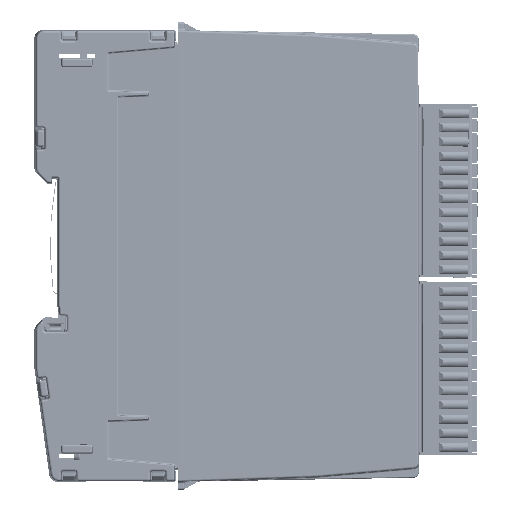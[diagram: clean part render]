
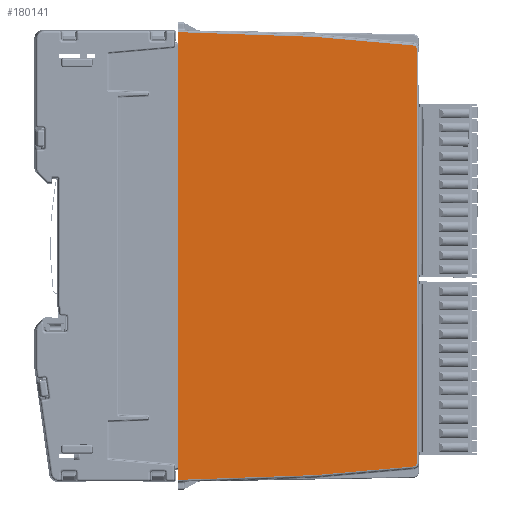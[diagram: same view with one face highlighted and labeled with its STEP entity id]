
A CAD part, left-side view. The second image highlights one B-rep face of the part: STEP entity #180141.
In plain terms, the highlighted planar face has unit normal (-1, -0.018, 0).
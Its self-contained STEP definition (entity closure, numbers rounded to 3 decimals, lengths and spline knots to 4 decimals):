
#2360=ELLIPSE('',#193391,0.0315,0.0315);
#2361=ELLIPSE('',#193392,0.0315,0.0315);
#10022=PLANE('',#193390);
#18099=FACE_OUTER_BOUND('',#28067,.T.);
#28067=EDGE_LOOP('',(#147251,#147252,#147253,#147254,#147255,#147256,#147257,
#147258,#147259,#147260));
#49917=LINE('',#298847,#67683);
#49918=LINE('',#298849,#67684);
#49919=LINE('',#298851,#67685);
#49920=LINE('',#298853,#67686);
#49921=LINE('',#298855,#67687);
#49922=LINE('',#298859,#67688);
#49923=LINE('',#298863,#67689);
#49924=LINE('',#298864,#67690);
#67683=VECTOR('',#229866,39.3701);
#67684=VECTOR('',#229867,39.3701);
#67685=VECTOR('',#229868,39.3701);
#67686=VECTOR('',#229869,39.3701);
#67687=VECTOR('',#229870,39.3701);
#67688=VECTOR('',#229873,39.3701);
#67689=VECTOR('',#229876,39.3701);
#67690=VECTOR('',#229877,39.3701);
#84103=VERTEX_POINT('',#298845);
#84104=VERTEX_POINT('',#298846);
#84105=VERTEX_POINT('',#298848);
#84106=VERTEX_POINT('',#298850);
#84107=VERTEX_POINT('',#298852);
#84108=VERTEX_POINT('',#298854);
#84109=VERTEX_POINT('',#298856);
#84110=VERTEX_POINT('',#298858);
#84111=VERTEX_POINT('',#298860);
#84112=VERTEX_POINT('',#298862);
#106085=EDGE_CURVE('',#84103,#84104,#49917,.T.);
#106086=EDGE_CURVE('',#84105,#84104,#49918,.T.);
#106087=EDGE_CURVE('',#84105,#84106,#49919,.T.);
#106088=EDGE_CURVE('',#84106,#84107,#49920,.T.);
#106089=EDGE_CURVE('',#84107,#84108,#49921,.T.);
#106090=EDGE_CURVE('',#84108,#84109,#2360,.T.);
#106091=EDGE_CURVE('',#84109,#84110,#49922,.T.);
#106092=EDGE_CURVE('',#84110,#84111,#2361,.T.);
#106093=EDGE_CURVE('',#84111,#84112,#49923,.T.);
#106094=EDGE_CURVE('',#84112,#84103,#49924,.T.);
#147251=ORIENTED_EDGE('',*,*,#106085,.T.);
#147252=ORIENTED_EDGE('',*,*,#106086,.F.);
#147253=ORIENTED_EDGE('',*,*,#106087,.T.);
#147254=ORIENTED_EDGE('',*,*,#106088,.T.);
#147255=ORIENTED_EDGE('',*,*,#106089,.T.);
#147256=ORIENTED_EDGE('',*,*,#106090,.T.);
#147257=ORIENTED_EDGE('',*,*,#106091,.T.);
#147258=ORIENTED_EDGE('',*,*,#106092,.T.);
#147259=ORIENTED_EDGE('',*,*,#106093,.T.);
#147260=ORIENTED_EDGE('',*,*,#106094,.T.);
#180141=ADVANCED_FACE('',(#18099),#10022,.T.);
#193390=AXIS2_PLACEMENT_3D('',#298844,#229864,#229865);
#193391=AXIS2_PLACEMENT_3D('',#298857,#229871,#229872);
#193392=AXIS2_PLACEMENT_3D('',#298861,#229874,#229875);
#229864=DIRECTION('center_axis',(-1.,-0.017,
0.));
#229865=DIRECTION('ref_axis',(-0.017,1.,0.));
#229866=DIRECTION('',(0.,0.,-1.));
#229867=DIRECTION('',(0.,0.,1.));
#229868=DIRECTION('',(0.,0.,-1.));
#229869=DIRECTION('',(0.017,-0.999,0.035));
#229870=DIRECTION('',(0.017,-0.996,0.087));
#229871=DIRECTION('center_axis',(-1.,-0.017,
0.));
#229872=DIRECTION('ref_axis',(0.017,-1.,0.));
#229873=DIRECTION('',(0.,0.,1.));
#229874=DIRECTION('center_axis',(-1.,-0.017,
0.));
#229875=DIRECTION('ref_axis',(0.017,-1.,0.));
#229876=DIRECTION('',(-0.017,0.996,0.087));
#229877=DIRECTION('',(-0.017,0.999,0.035));
#298844=CARTESIAN_POINT('Origin',(-0.0296,-0.489,
-2.0669));
#298845=CARTESIAN_POINT('',(-0.0227,-0.8827,0.1083));
#298846=CARTESIAN_POINT('',(-0.0227,-0.8827,-0.0312));
#298847=CARTESIAN_POINT('',(-0.0227,-0.8827,0.128));
#298848=CARTESIAN_POINT('',(-0.0227,-0.8827,-4.1027));
#298849=CARTESIAN_POINT('',(-0.0227,-0.8827,-7.5932));
#298850=CARTESIAN_POINT('',(-0.0227,-0.8827,-4.2421));
#298851=CARTESIAN_POINT('',(-0.0227,-0.8827,0.128));
#298852=CARTESIAN_POINT('',(0.0007,-2.2205,-4.1954));
#298853=CARTESIAN_POINT('',(-0.0282,-0.5654,-4.2532));
#298854=CARTESIAN_POINT('',(0.0174,-3.1772,-4.1117));
#298855=CARTESIAN_POINT('',(-0.0261,-0.6869,-4.3296));
#298856=CARTESIAN_POINT('',(0.0179,-3.2059,-4.0803));
#298857=CARTESIAN_POINT('Origin',(0.0173,-3.1744,
-4.0803));
#298858=CARTESIAN_POINT('',(0.0179,-3.2059,-0.0535));
#298859=CARTESIAN_POINT('',(0.0179,-3.2059,-0.0535));
#298860=CARTESIAN_POINT('',(0.0174,-3.1772,-0.0221));
#298861=CARTESIAN_POINT('Origin',(0.0173,-3.1744,
-0.0535));
#298862=CARTESIAN_POINT('',(0.0007,-2.2205,0.0616));
#298863=CARTESIAN_POINT('',(-0.0261,-0.6869,0.1957));
#298864=CARTESIAN_POINT('',(-0.0282,-0.5654,0.1194));
